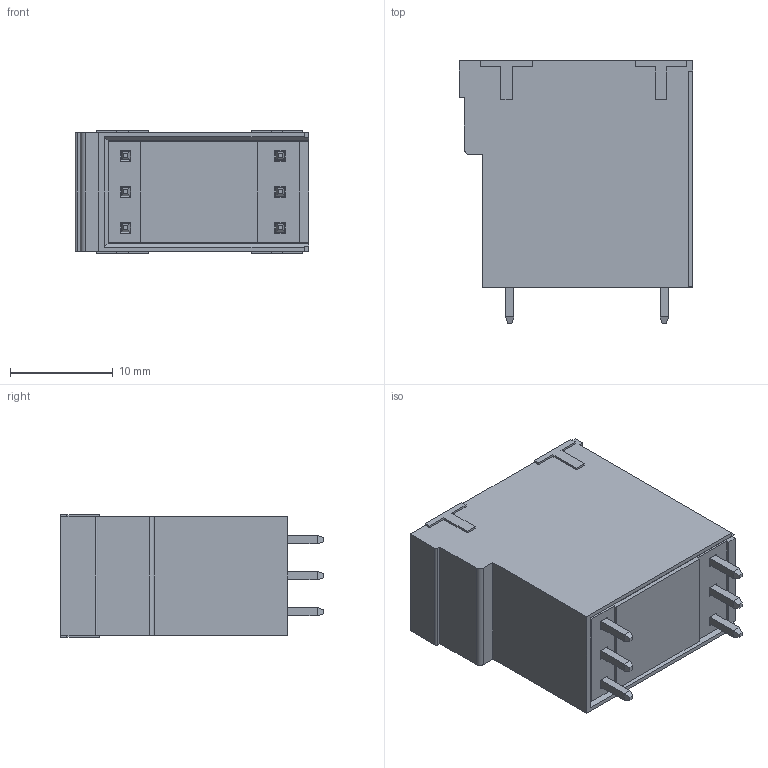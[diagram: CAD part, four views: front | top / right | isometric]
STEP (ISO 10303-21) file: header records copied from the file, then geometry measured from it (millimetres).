
FILE_DESCRIPTION((''),'2;1');
FILE_NAME('VL0613500000G','2022-06-15T',('renkang.li'),(''),'CREO PARAMETRIC BY PTC INC, 2016260','CREO PARAMETRIC BY PTC INC, 2016260','');
FILE_SCHEMA(('CONFIG_CONTROL_DESIGN'));
Length unit declared in the file: millimetre
Products named in the file (1): VL0613500000G
Bounding box: 22.7 x 25.5 x 11.9 mm (x, y, z)
Volume: 2346.4 mm3; surface area: 5980.3 mm2
Topology: 1 solids, 13 shells, 784 faces, 2101 edges, 1360 vertices
Faces by surface type: plane 706, cylinder 48, cone 18, torus 12
Entity records: 24079 total; most frequent: CARTESIAN_POINT 4383, ORIENTED_EDGE 4202, DIRECTION 3791, EDGE_CURVE 2101, VECTOR 1931, LINE 1931, VERTEX_POINT 1360, AXIS2_PLACEMENT_3D 930
